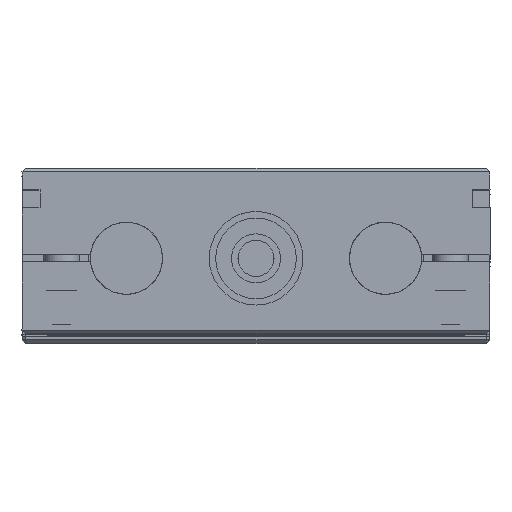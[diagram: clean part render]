
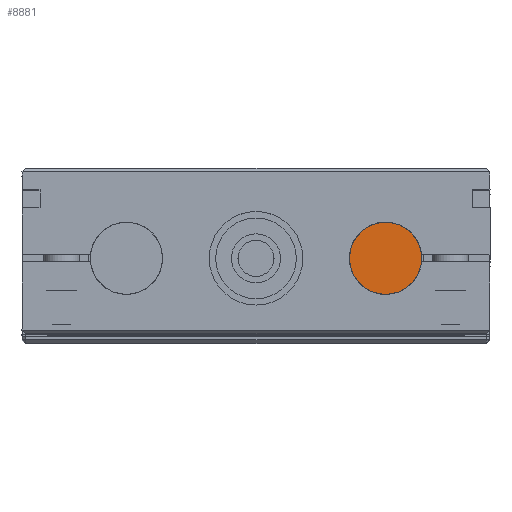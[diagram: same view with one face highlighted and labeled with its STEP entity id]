
A CAD part, top view. The second image highlights one B-rep face of the part: STEP entity #8881.
In plain terms, the highlighted planar face has unit normal (0, 0, 1) as drawn and (1, 0, 0) by its records, which use the part's own axes.
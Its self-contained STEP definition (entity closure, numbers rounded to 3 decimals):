
#486 = DIRECTION ( 'NONE',  ( 0., 0., -1. ) ) ;
#751 = DIRECTION ( 'NONE',  ( 1., 0., 0. ) ) ;
#6318 = AXIS2_PLACEMENT_3D ( 'NONE', #44451, #751, #29365 ) ;
#7921 = EDGE_LOOP ( 'NONE', ( #40305, #23790 ) ) ;
#8881 = ADVANCED_FACE ( 'NONE', ( #57401 ), #23459, .T. ) ;
#17287 = CARTESIAN_POINT ( 'NONE',  ( 380., 25., 46. ) ) ;
#19014 = DIRECTION ( 'NONE',  ( 0., 0., -1. ) ) ;
#19972 = CARTESIAN_POINT ( 'NONE',  ( 380., 25., 36. ) ) ;
#20238 = CARTESIAN_POINT ( 'NONE',  ( 380., 25., 26. ) ) ;
#23459 = PLANE ( 'NONE',  #25751 ) ;
#23790 = ORIENTED_EDGE ( 'NONE', *, *, #39962, .T. ) ;
#25387 = CIRCLE ( 'NONE', #6318, 10. ) ;
#25751 = AXIS2_PLACEMENT_3D ( 'NONE', #19972, #48595, #486 ) ;
#28439 = CARTESIAN_POINT ( 'NONE',  ( 380., 25., 36. ) ) ;
#29365 = DIRECTION ( 'NONE',  ( 0., 0., -1. ) ) ;
#31973 = AXIS2_PLACEMENT_3D ( 'NONE', #28439, #33459, #19014 ) ;
#32309 = VERTEX_POINT ( 'NONE', #20238 ) ;
#33459 = DIRECTION ( 'NONE',  ( 1., 0., 0. ) ) ;
#35259 = EDGE_CURVE ( 'NONE', #32309, #38865, #61087, .T. ) ;
#38865 = VERTEX_POINT ( 'NONE', #17287 ) ;
#39962 = EDGE_CURVE ( 'NONE', #38865, #32309, #25387, .T. ) ;
#40305 = ORIENTED_EDGE ( 'NONE', *, *, #35259, .T. ) ;
#44451 = CARTESIAN_POINT ( 'NONE',  ( 380., 25., 36. ) ) ;
#48595 = DIRECTION ( 'NONE',  ( 1., 0., 0. ) ) ;
#57401 = FACE_OUTER_BOUND ( 'NONE', #7921, .T. ) ;
#61087 = CIRCLE ( 'NONE', #31973, 10. ) ;
